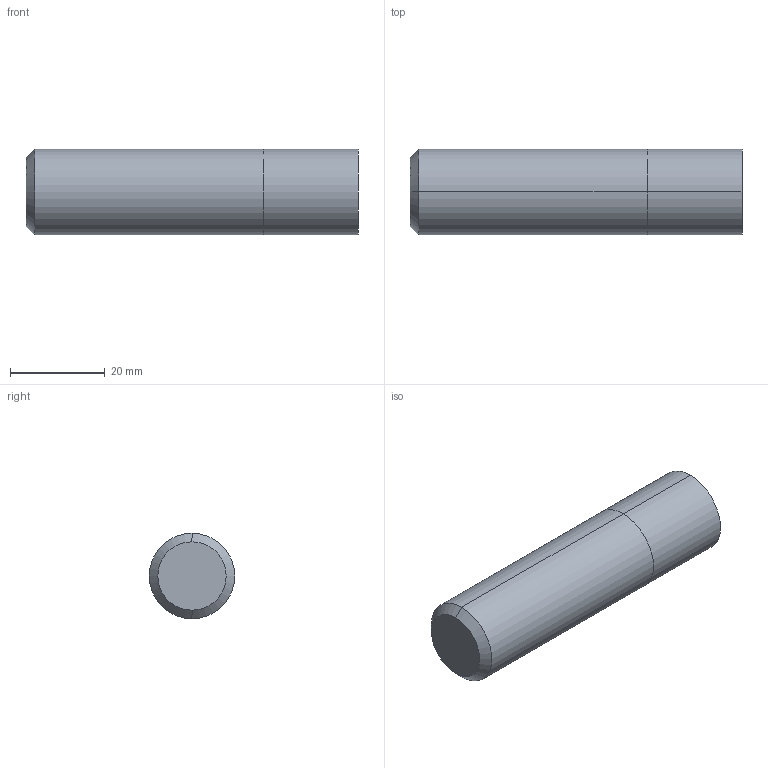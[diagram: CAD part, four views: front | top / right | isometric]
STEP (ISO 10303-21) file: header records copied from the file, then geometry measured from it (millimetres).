
FILE_DESCRIPTION (( 'STEP AP214' ), '1' );
FILE_NAME ('G9410180.STEP', '2018-07-03T03:33:35', ( '' ), ( '' ), 'SwSTEP 2.0', 'SolidWorks 2014', '' );
FILE_SCHEMA (( 'AUTOMOTIVE_DESIGN' ));
Length unit declared in the file: millimetre
Products named in the file (1): G9410180
Bounding box: 70 x 18 x 18 mm (x, y, z)
Volume: 17727.3 mm3; surface area: 4912.4 mm2
Topology: 2 solids, 2 shells, 10 faces, 16 edges, 10 vertices
Faces by surface type: cylinder 4, plane 4, cone 2
Entity records: 321 total; most frequent: DIRECTION 48, CARTESIAN_POINT 37, ORIENTED_EDGE 32, AXIS2_PLACEMENT_3D 21, EDGE_CURVE 16, EDGE_LOOP 10, FACE_OUTER_BOUND 10, CIRCLE 10
